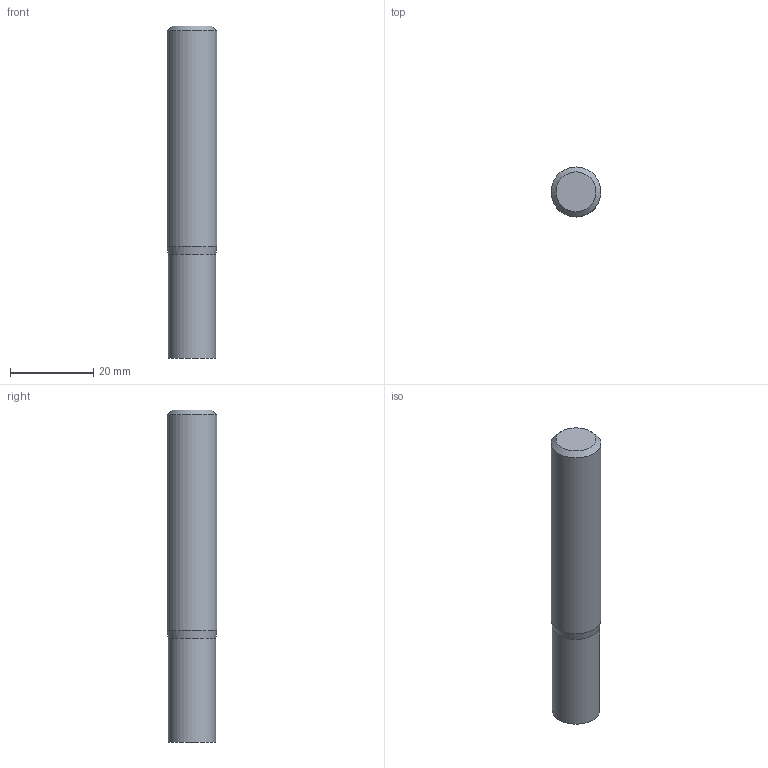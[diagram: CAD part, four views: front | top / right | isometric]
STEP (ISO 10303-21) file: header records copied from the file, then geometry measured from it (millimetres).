
FILE_DESCRIPTION((''),'2;1');
FILE_NAME('C:\Users\nsx150\AppData\Local\Temp\Mastercam 2021\98T1Q6BTT1\TEMP.step','2021-10-21T14:50:25',(''),(''),'STEP Write','Mastercam 2021 ... CNC Software, Inc.','');
FILE_SCHEMA(('AUTOMOTIVE_DESIGN'));
Length unit declared in the file: millimetre
Products named in the file (1): None
Bounding box: 12 x 12 x 80 mm (x, y, z)
Volume: 8736.2 mm3; surface area: 3358.8 mm2
Topology: 2 solids, 2 shells, 8 faces, 10 edges, 6 vertices
Faces by surface type: plane 4, cylinder 2, cone 2
Full cylindrical faces by diameter (mm): 11.4 x1, 12 x1
Entity records: 190 total; most frequent: DIRECTION 32, CARTESIAN_POINT 22, AXIS2_PLACEMENT_3D 16, ORIENTED_EDGE 12, EDGE_LOOP 12, STYLED_ITEM 11, ADVANCED_FACE 8, VERTEX_POINT 6
